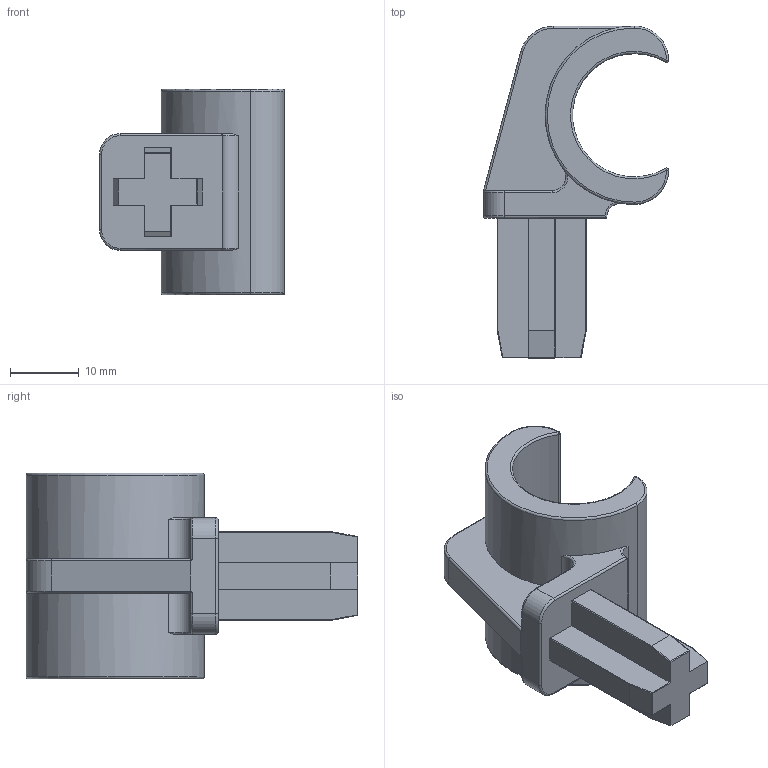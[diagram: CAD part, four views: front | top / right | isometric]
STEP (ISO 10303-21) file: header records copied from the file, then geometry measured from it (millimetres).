
FILE_DESCRIPTION((''),'2;1');
FILE_NAME('C:\Vault Klient\Projekt\Step\300-1010.stp','2009-12-04T09:33:29',('Mathias'),(''),'Autodesk Inventor 2010','Autodesk Inventor 2010','');
FILE_SCHEMA(('CONFIG_CONTROL_DESIGN'));
Length unit declared in the file: millimetre
Products named in the file (1): 300-1010
Bounding box: 27 x 48.4 x 30 mm (x, y, z)
Volume: 9139.6 mm3; surface area: 5188.3 mm2
Topology: 1 solids, 1 shells, 107 faces, 257 edges, 146 vertices
Faces by surface type: cylinder 50, plane 30, torus 18, sphere 5, bspline 4
Entity records: 3212 total; most frequent: CARTESIAN_POINT 722, DIRECTION 549, ORIENTED_EDGE 500, EDGE_CURVE 250, AXIS2_PLACEMENT_3D 214, VERTEX_POINT 146, VECTOR 121, LINE 121
